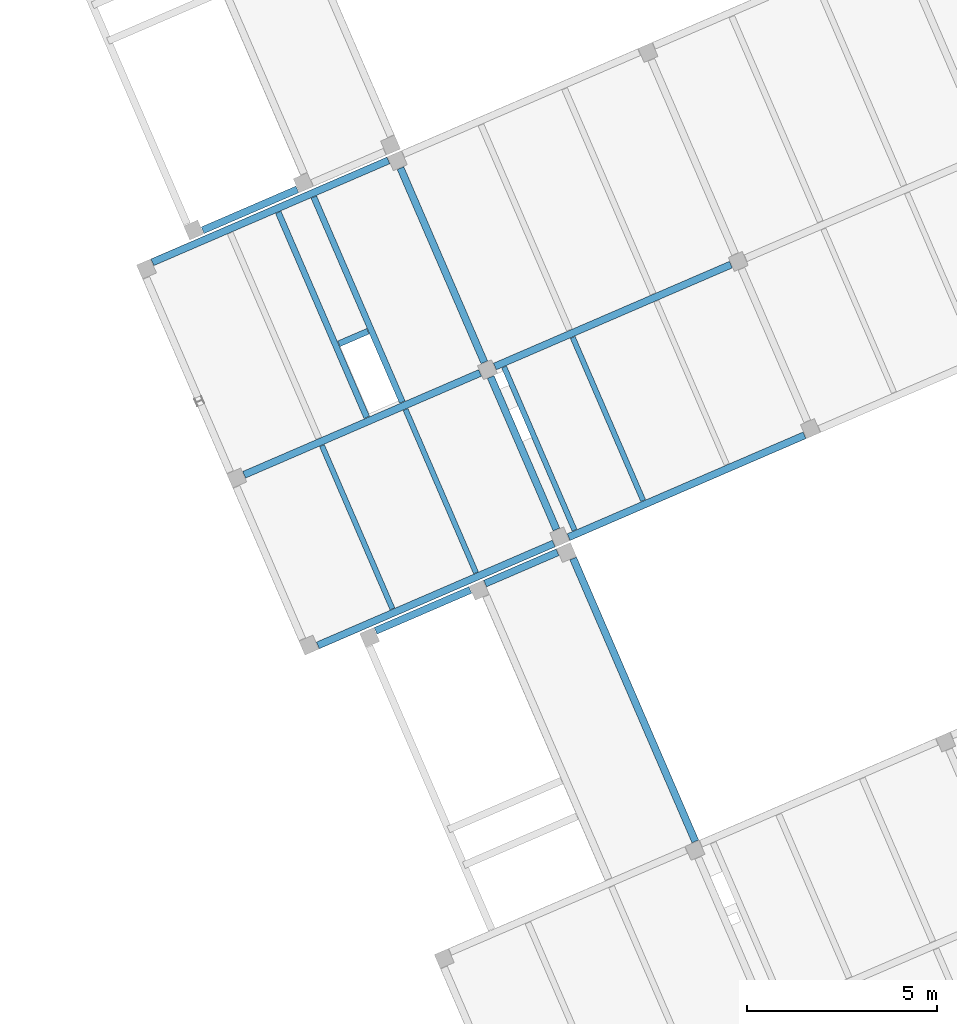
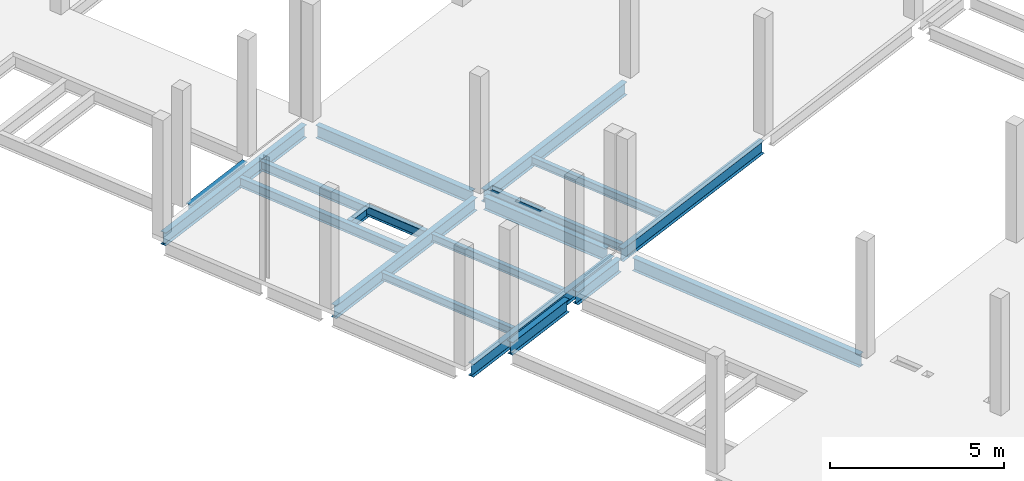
# One storey, part 8 of 24: 18 beams.
"""IFC4 building model written with IfcOpenShell, lengths in metres."""

from ifc_helpers import new_model, entity, si_unit, converted_unit, derived_unit, direction, frame, origin, place, context, subcontext, project, spatial, line, arc, indexed_curve, outline, extrude, source, transform, mapped, material, type_object, type_shapes, element, save


model = new_model("IFC4")

# Units and contexts
model_context = context("Model", 3, precision=1e-05, world=origin(), true_north=direction((6.12323399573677e-17, 1.0)))
body_context = subcontext(model_context, "Body", "Model", "MODEL_VIEW")
ifc_project = project(units=[si_unit("LENGTHUNIT", "METRE"), si_unit("AREAUNIT", "SQUARE_METRE"), si_unit("VOLUMEUNIT", "CUBIC_METRE"), converted_unit("PLANEANGLEUNIT", "DEGREE", entity("IfcPlaneAngleMeasure", 0.0174532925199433), si_unit("PLANEANGLEUNIT", "RADIAN"), dimensions=[0, 0, 0, 0, 0, 0, 0]), si_unit("MASSUNIT", "GRAM", prefix="KILO"), derived_unit("MOMENTOFINERTIAUNIT", [(si_unit("LENGTHUNIT", "METRE"), 4)]), derived_unit("LINEARFORCEUNIT", [(si_unit("MASSUNIT", "GRAM", prefix="KILO"), 1), (si_unit("TIMEUNIT", "SECOND"), -2)]), derived_unit("WARPINGCONSTANTUNIT", [(si_unit("LENGTHUNIT", "METRE"), 6)]), derived_unit("THERMALTRANSMITTANCEUNIT", [(si_unit("MASSUNIT", "GRAM", prefix="KILO"), 1), (si_unit("THERMODYNAMICTEMPERATUREUNIT", "KELVIN"), -1), (si_unit("TIMEUNIT", "SECOND"), -3)]), derived_unit("USERDEFINED", [(si_unit("MASSUNIT", "GRAM", prefix="KILO"), 1), (si_unit("TIMEUNIT", "SECOND"), -2), (si_unit("THERMODYNAMICTEMPERATUREUNIT", "KELVIN"), -1)]), derived_unit("THERMALRESISTANCEUNIT", [(si_unit("MASSUNIT", "GRAM", prefix="KILO"), -1), (si_unit("TIMEUNIT", "SECOND"), 3), (si_unit("THERMODYNAMICTEMPERATUREUNIT", "KELVIN"), 1)])], contexts=[model_context])

# Site, building, storey
site_placement = place(None, origin())
site = spatial("IfcSite", under=ifc_project, at=site_placement, Name="Default", CompositionType="ELEMENT")
building_placement = place(site_placement, frame((12.6613425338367, -82.5732315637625, 317.15), z_axis=(0.0, 0.0, 1.0), x_axis=(-0.396377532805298, 0.918087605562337, 0.0)))
building = spatial("IfcBuilding", under=site, at=building_placement, Name="CESFAM Coyhaique", CompositionType="ELEMENT")
storey_placement = place(building_placement, frame((0.0, 0.0, 4.20000000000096)))
storey = spatial("IfcBuildingStorey", under=building, at=storey_placement, Name="Nivel 2", CompositionType="ELEMENT", Elevation=4.20000000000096)

# Beams
ifc_material = material(Name="Steel, 45-345", Category="Metal")
beam_type_1 = type_object("IfcBeamType", Name="M_W Shapes:W450X190mm", PredefinedType="BEAM", material=ifc_material)
shared_shape_1 = source(origin(), body_context, "Body", "SweptSolid", [
    extrude(outline(indexed_curve([(-0.0949999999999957, -0.225000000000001), (0.0950000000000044, -0.225000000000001), (0.0950000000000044, -0.21535), (0.0105700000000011, -0.21535), (0.00516063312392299, -0.213109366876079), (0.0029200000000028, -0.2077), (0.0029200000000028, 0.207699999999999), (0.00516063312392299, 0.213109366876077), (0.0105700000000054, 0.21535), (0.0950000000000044, 0.21535), (0.0950000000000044, 0.224999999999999), (-0.0949999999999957, 0.224999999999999), (-0.0949999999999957, 0.21535), (-0.0105699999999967, 0.215349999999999), (-0.00516063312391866, 0.213109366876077), (-0.00291999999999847, 0.207699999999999), (-0.00291999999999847, -0.2077), (-0.00516063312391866, -0.213109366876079), (-0.0105699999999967, -0.21535), (-0.0949999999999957, -0.21535)], segments=[line(1, 2, 3, 4), arc(4, 5, 6), line(6, 7), arc(7, 8, 9), line(9, 10, 11, 12, 13, 14), arc(14, 15, 16), line(16, 17), arc(17, 18, 19), line(19, 20, 1)], self_intersect=False)), frame((23.8688534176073, 10.2155504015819, 3.82500000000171), z_axis=(0.0, 1.0, 0.0), x_axis=(-1.0, 0.0, 0.0)), (0.0, 0.0, 1.0), 6.7746),
])
type_shapes(beam_type_1, [shared_shape_1])
beam_1_placement = place(storey_placement, frame((0.0, 0.0, -4.20000000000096)))
element("IfcBeam", 1, at=beam_1_placement, inside=storey, type_object=beam_type_1, Name="M_W Shapes:W450X190mm", ObjectType="M_W Shapes:W450X190mm", PredefinedType="BEAM", context=body_context, shape_type="MappedRepresentation", body=[
    mapped(shared_shape_1, transform((0.0, 0.0, 0.0), scale=1.0)),
])
beam_type_2 = type_object("IfcBeamType", Name="M_W Shapes:W450X190mm", PredefinedType="BEAM", material=ifc_material)
shared_shape_2 = source(origin(), body_context, "Body", "SweptSolid", [
    extrude(outline(indexed_curve([(-0.0950000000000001, -0.225000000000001), (0.0950000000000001, -0.225000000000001), (0.0950000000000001, -0.21535), (0.0105699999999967, -0.21535), (0.00516063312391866, -0.213109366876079), (0.00291999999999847, -0.2077), (0.00291999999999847, 0.207699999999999), (0.00516063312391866, 0.213109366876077), (0.0105700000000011, 0.21535), (0.0950000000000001, 0.21535), (0.0950000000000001, 0.224999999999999), (-0.0950000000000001, 0.224999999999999), (-0.0950000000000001, 0.21535), (-0.0105700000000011, 0.215349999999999), (-0.00516063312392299, 0.213109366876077), (-0.0029200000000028, 0.207699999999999), (-0.0029200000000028, -0.2077), (-0.00516063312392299, -0.213109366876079), (-0.0105700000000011, -0.21535), (-0.0950000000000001, -0.21535)], segments=[line(1, 2, 3, 4), arc(4, 5, 6), line(6, 7), arc(7, 8, 9), line(9, 10, 11, 12, 13, 14), arc(14, 15, 16), line(16, 17), arc(17, 18, 19), line(19, 20, 1)], self_intersect=False)), frame((28.7688534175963, 10.2155504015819, 3.82500000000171), z_axis=(0.0, 1.0, 0.0), x_axis=(-1.0, 0.0, 0.0)), (0.0, 0.0, 1.0), 6.7746),
])
type_shapes(beam_type_2, [shared_shape_2])
beam_2_placement = place(storey_placement, frame((0.0, 0.0, -4.20000000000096)))
element("IfcBeam", 2, at=beam_2_placement, inside=storey, type_object=beam_type_2, Name="M_W Shapes:W450X190mm", ObjectType="M_W Shapes:W450X190mm", PredefinedType="BEAM", context=body_context, shape_type="MappedRepresentation", body=[
    mapped(shared_shape_2, transform((0.0, 0.0, 0.0), scale=1.0)),
])
beam_type_3 = type_object("IfcBeamType", Name="M_W Shapes:W450X190mm", PredefinedType="BEAM", material=ifc_material)
shared_shape_3 = source(origin(), body_context, "Body", "SweptSolid", [
    extrude(outline(indexed_curve([(-0.0949999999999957, -0.225000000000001), (0.0950000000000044, -0.225000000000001), (0.0950000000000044, -0.21535), (0.0105700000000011, -0.21535), (0.00516063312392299, -0.213109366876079), (0.0029200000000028, -0.2077), (0.0029200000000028, 0.207699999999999), (0.00516063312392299, 0.213109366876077), (0.0105700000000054, 0.21535), (0.0950000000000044, 0.21535), (0.0950000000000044, 0.224999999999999), (-0.0949999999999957, 0.224999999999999), (-0.0949999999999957, 0.21535), (-0.0105699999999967, 0.215349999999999), (-0.00516063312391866, 0.213109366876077), (-0.00291999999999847, 0.207699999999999), (-0.00291999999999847, -0.2077), (-0.00516063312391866, -0.213109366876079), (-0.0105699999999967, -0.21535), (-0.0949999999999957, -0.21535)], segments=[line(1, 2, 3, 4), arc(4, 5, 6), line(6, 7), arc(7, 8, 9), line(9, 10, 11, 12, 13, 14), arc(14, 15, 16), line(16, 17), arc(17, 18, 19), line(19, 20, 1)], self_intersect=False)), frame((34.8688534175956, 10.2155504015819, 3.82500000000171), z_axis=(0.0, 1.0, 0.0), x_axis=(-1.0, 0.0, 0.0)), (0.0, 0.0, 1.0), 6.7746),
])
type_shapes(beam_type_3, [shared_shape_3])
beam_3_placement = place(storey_placement, frame((0.0, 0.0, -4.20000000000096)))
element("IfcBeam", 3, at=beam_3_placement, inside=storey, type_object=beam_type_3, Name="M_W Shapes:W450X190mm", ObjectType="M_W Shapes:W450X190mm", PredefinedType="BEAM", context=body_context, shape_type="MappedRepresentation", body=[
    mapped(shared_shape_3, transform((0.0, 0.0, 0.0), scale=1.0)),
])
beam_type_4 = type_object("IfcBeamType", Name="M_W Shapes:W450X190mm", PredefinedType="BEAM", material=ifc_material)
shared_shape_4 = source(origin(), body_context, "Body", "SweptSolid", [
    extrude(outline(indexed_curve([(-0.225, -0.0950000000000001), (-0.215350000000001, -0.0949999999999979), (-0.21535, -0.0105699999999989), (-0.213109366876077, -0.00516063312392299), (-0.2077, -0.00291999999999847), (0.207699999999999, -0.00291999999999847), (0.213109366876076, -0.00516063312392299), (0.215349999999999, -0.0105699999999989), (0.215349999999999, -0.0950000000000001), (0.225, -0.0950000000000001), (0.225, 0.0950000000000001), (0.215349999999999, 0.0950000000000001), (0.215349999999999, 0.0105700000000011), (0.213109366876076, 0.00516063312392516), (0.207699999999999, 0.00292000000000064), (-0.2077, 0.00292000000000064), (-0.213109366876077, 0.00516063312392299), (-0.215350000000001, 0.0105700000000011), (-0.215350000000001, 0.0950000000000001), (-0.225, 0.0950000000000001)], segments=[line(1, 2, 3), arc(3, 4, 5), line(5, 6), arc(6, 7, 8), line(8, 9, 10, 11, 12, 13), arc(13, 14, 15), line(15, 16), arc(16, 17, 18), line(18, 19, 20, 1)], self_intersect=False)), frame((24.1815534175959, 10.0028504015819, 3.82500000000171), z_axis=(1.0, 0.0, 0.0), x_axis=(0.0, 0.0, -1.0)), (0.0, 0.0, 1.0), 4.3746),
])
type_shapes(beam_type_4, [shared_shape_4])
beam_4_placement = place(storey_placement, frame((0.0, 0.0, -4.20000000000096)))
element("IfcBeam", 4, at=beam_4_placement, inside=storey, type_object=beam_type_4, Name="M_W Shapes:W450X190mm", ObjectType="M_W Shapes:W450X190mm", PredefinedType="BEAM", context=body_context, shape_type="MappedRepresentation", body=[
    mapped(shared_shape_4, transform((0.0, 0.0, 0.0), scale=1.0)),
])
beam_type_5 = type_object("IfcBeamType", Name="M_W Shapes:W450X190mm", PredefinedType="BEAM", material=ifc_material)
shared_shape_5 = source(origin(), body_context, "Body", "SweptSolid", [
    extrude(outline(indexed_curve([(-0.0949999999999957, -0.225000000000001), (0.0950000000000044, -0.225000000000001), (0.0950000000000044, -0.21535), (0.0105700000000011, -0.21535), (0.00516063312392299, -0.213109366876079), (0.0029200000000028, -0.2077), (0.0029200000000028, 0.207699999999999), (0.00516063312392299, 0.213109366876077), (0.0105700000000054, 0.21535), (0.0950000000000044, 0.21535), (0.0950000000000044, 0.224999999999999), (-0.0949999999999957, 0.224999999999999), (-0.0949999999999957, 0.21535), (-0.0105699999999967, 0.215349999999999), (-0.00516063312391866, 0.213109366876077), (-0.00291999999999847, 0.207699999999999), (-0.00291999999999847, -0.2077), (-0.00516063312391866, -0.213109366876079), (-0.0105699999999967, -0.21535), (-0.0949999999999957, -0.21535)], segments=[line(1, 2, 3, 4), arc(4, 5, 6), line(6, 7), arc(7, 8, 9), line(9, 10, 11, 12, 13, 14), arc(14, 15, 16), line(16, 17), arc(17, 18, 19), line(19, 20, 1)], self_intersect=False)), frame((23.8688534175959, 3.0155504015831, 3.82500000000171), z_axis=(0.0, 1.0, 0.0), x_axis=(-1.0, 0.0, 0.0)), (0.0, 0.0, 1.0), 6.7746),
])
type_shapes(beam_type_5, [shared_shape_5])
beam_5_placement = place(storey_placement, frame((0.0, 0.0, -4.20000000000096)))
element("IfcBeam", 5, at=beam_5_placement, inside=storey, type_object=beam_type_5, Name="M_W Shapes:W450X190mm", ObjectType="M_W Shapes:W450X190mm", PredefinedType="BEAM", context=body_context, shape_type="MappedRepresentation", body=[
    mapped(shared_shape_5, transform((0.0, 0.0, 0.0), scale=1.0)),
])
beam_type_6 = type_object("IfcBeamType", Name="M_W Shapes:W450X190mm", PredefinedType="BEAM", material=ifc_material)
shared_shape_6 = source(origin(), body_context, "Body", "SweptSolid", [
    extrude(outline(indexed_curve([(-0.0950000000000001, -0.225000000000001), (0.0950000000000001, -0.225000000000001), (0.0950000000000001, -0.21535), (0.0105699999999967, -0.21535), (0.00516063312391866, -0.213109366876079), (0.00291999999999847, -0.2077), (0.00291999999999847, 0.207699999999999), (0.00516063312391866, 0.213109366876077), (0.0105700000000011, 0.21535), (0.0950000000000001, 0.21535), (0.0950000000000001, 0.224999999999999), (-0.0950000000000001, 0.224999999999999), (-0.0950000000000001, 0.21535), (-0.0105700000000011, 0.215349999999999), (-0.00516063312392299, 0.213109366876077), (-0.0029200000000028, 0.207699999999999), (-0.0029200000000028, -0.2077), (-0.00516063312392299, -0.213109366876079), (-0.0105700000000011, -0.21535), (-0.0950000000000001, -0.21535)], segments=[line(1, 2, 3, 4), arc(4, 5, 6), line(6, 7), arc(7, 8, 9), line(9, 10, 11, 12, 13, 14), arc(14, 15, 16), line(16, 17), arc(17, 18, 19), line(19, 20, 1)], self_intersect=False)), frame((28.7688534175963, 3.0155504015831, 3.82500000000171), z_axis=(0.0, 1.0, 0.0), x_axis=(-1.0, 0.0, 0.0)), (0.0, 0.0, 1.0), 6.7746),
])
type_shapes(beam_type_6, [shared_shape_6])
beam_6_placement = place(storey_placement, frame((0.0, 0.0, -4.20000000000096)))
element("IfcBeam", 6, at=beam_6_placement, inside=storey, type_object=beam_type_6, Name="M_W Shapes:W450X190mm", ObjectType="M_W Shapes:W450X190mm", PredefinedType="BEAM", context=body_context, shape_type="MappedRepresentation", body=[
    mapped(shared_shape_6, transform((0.0, 0.0, 0.0), scale=1.0)),
])
beam_type_7 = type_object("IfcBeamType", Name="M_W Shapes:W450X190mm", PredefinedType="BEAM", material=ifc_material)
shared_shape_7 = source(origin(), body_context, "Body", "SweptSolid", [
    extrude(outline(indexed_curve([(-0.225, -0.0950000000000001), (-0.215350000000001, -0.0950000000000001), (-0.21535, -0.0105699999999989), (-0.213109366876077, -0.00516063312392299), (-0.2077, -0.00291999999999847), (0.207699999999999, -0.00291999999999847), (0.213109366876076, -0.00516063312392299), (0.215349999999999, -0.0105699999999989), (0.215349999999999, -0.0950000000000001), (0.225, -0.0950000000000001), (0.225, 0.0950000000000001), (0.215349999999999, 0.0950000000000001), (0.215349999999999, 0.0105700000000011), (0.213109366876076, 0.00516063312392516), (0.207699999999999, 0.00292000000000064), (-0.2077, 0.00292000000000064), (-0.213109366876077, 0.00516063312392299), (-0.215350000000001, 0.0105700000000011), (-0.215350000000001, 0.0950000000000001), (-0.225, 0.0950000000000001)], segments=[line(1, 2, 3), arc(3, 4, 5), line(5, 6), arc(6, 7, 8), line(8, 9, 10, 11, 12, 13), arc(13, 14, 15), line(15, 16), arc(16, 17, 18), line(18, 19, 20, 1)], self_intersect=False)), frame((28.981553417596, 10.0028504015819, 3.82500000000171), z_axis=(1.0, 0.0, 0.0), x_axis=(0.0, 0.0, -1.0)), (0.0, 0.0, 1.0), 5.5746),
])
type_shapes(beam_type_7, [shared_shape_7])
beam_7_placement = place(storey_placement, frame((0.0, 0.0, -4.20000000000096)))
element("IfcBeam", 7, at=beam_7_placement, inside=storey, type_object=beam_type_7, Name="M_W Shapes:W450X190mm", ObjectType="M_W Shapes:W450X190mm", PredefinedType="BEAM", context=body_context, shape_type="MappedRepresentation", body=[
    mapped(shared_shape_7, transform((0.0, 0.0, 0.0), scale=1.0)),
])
beam_type_8 = type_object("IfcBeamType", Name="M_W Shapes:W450X190mm", PredefinedType="BEAM", material=ifc_material)
shared_shape_8 = source(origin(), body_context, "Body", "SweptSolid", [
    extrude(outline(indexed_curve([(-0.225, -0.0950000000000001), (-0.215350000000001, -0.0949999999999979), (-0.21535, -0.0105699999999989), (-0.213109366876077, -0.00516063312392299), (-0.2077, -0.00291999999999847), (0.207699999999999, -0.00291999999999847), (0.213109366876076, -0.00516063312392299), (0.215349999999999, -0.0105699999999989), (0.215349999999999, -0.0950000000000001), (0.225, -0.0950000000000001), (0.225, 0.0950000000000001), (0.215349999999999, 0.0950000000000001), (0.215349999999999, 0.0105700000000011), (0.213109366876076, 0.00516063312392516), (0.207699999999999, 0.00292000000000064), (-0.2077, 0.00292000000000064), (-0.213109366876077, 0.00516063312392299), (-0.215350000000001, 0.0105700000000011), (-0.215350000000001, 0.0950000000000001), (-0.225, 0.0950000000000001)], segments=[line(1, 2, 3), arc(3, 4, 5), line(5, 6), arc(6, 7, 8), line(8, 9, 10, 11, 12, 13), arc(13, 14, 15), line(15, 16), arc(16, 17, 18), line(18, 19, 20, 1)], self_intersect=False)), frame((15.1815534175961, 9.9028504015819, 3.82500000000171), z_axis=(1.0, 0.0, 0.0), x_axis=(0.0, 0.0, -1.0)), (0.0, 0.0, 1.0), 8.1246),
])
type_shapes(beam_type_8, [shared_shape_8])
beam_8_placement = place(storey_placement, frame((0.0, 0.0, -4.20000000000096)))
element("IfcBeam", 8, at=beam_8_placement, inside=storey, type_object=beam_type_8, Name="M_W Shapes:W450X190mm", ObjectType="M_W Shapes:W450X190mm", PredefinedType="BEAM", context=body_context, shape_type="MappedRepresentation", body=[
    mapped(shared_shape_8, transform((0.0, 0.0, 0.0), scale=1.0)),
])
beam_type_9 = type_object("IfcBeamType", Name="M_W Shapes:W450X190mm", PredefinedType="BEAM", material=ifc_material)
shared_shape_9 = source(origin(), body_context, "Body", "SweptSolid", [
    extrude(outline(indexed_curve([(-0.0950000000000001, -0.225000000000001), (0.0950000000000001, -0.225000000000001), (0.0950000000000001, -0.21535), (0.0105699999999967, -0.21535), (0.00516063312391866, -0.213109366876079), (0.00291999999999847, -0.2077), (0.00291999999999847, 0.207699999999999), (0.00516063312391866, 0.213109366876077), (0.0105699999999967, 0.21535), (0.0950000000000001, 0.21535), (0.0950000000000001, 0.224999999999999), (-0.0950000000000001, 0.224999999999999), (-0.0950000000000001, 0.21535), (-0.0105700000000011, 0.215349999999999), (-0.00516063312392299, 0.213109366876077), (-0.0029200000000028, 0.207699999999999), (-0.0029200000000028, -0.2077), (-0.00516063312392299, -0.213109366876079), (-0.0105700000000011, -0.21535), (-0.0950000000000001, -0.21535)], segments=[line(1, 2, 3, 4), arc(4, 5, 6), line(6, 7), arc(7, 8, 9), line(9, 10, 11, 12, 13, 14), arc(14, 15, 16), line(16, 17), arc(17, 18, 19), line(19, 20, 1)], self_intersect=False)), frame((23.6188533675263, 10.2155504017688, 3.82500000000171), z_axis=(0.0, 1.0, 0.0), x_axis=(-1.0, 0.0, 0.0)), (0.0, 0.0, 1.0), 2.0796),
])
type_shapes(beam_type_9, [shared_shape_9])
beam_9_placement = place(storey_placement, frame((0.0, 0.0, -4.20000000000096)))
element("IfcBeam", 9, at=beam_9_placement, inside=storey, type_object=beam_type_9, Name="M_W Shapes:W450X190mm", ObjectType="M_W Shapes:W450X190mm", PredefinedType="BEAM", context=body_context, shape_type="MappedRepresentation", body=[
    mapped(shared_shape_9, transform((0.0, 0.0, 0.0), scale=1.0)),
])
beam_type_10 = type_object("IfcBeamType", Name="M_W Shapes:W450X190mm", PredefinedType="BEAM", material=ifc_material)
shared_shape_10 = source(origin(), body_context, "Body", "SweptSolid", [
    extrude(outline(indexed_curve([(-0.0950000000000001, -0.225000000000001), (0.0950000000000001, -0.225000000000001), (0.0950000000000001, -0.21535), (0.0105699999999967, -0.21535), (0.00516063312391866, -0.213109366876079), (0.00291999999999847, -0.2077), (0.00291999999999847, 0.207699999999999), (0.00516063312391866, 0.213109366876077), (0.0105699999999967, 0.21535), (0.0950000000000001, 0.21535), (0.0950000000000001, 0.224999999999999), (-0.0950000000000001, 0.224999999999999), (-0.0950000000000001, 0.21535), (-0.0105700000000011, 0.215349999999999), (-0.00516063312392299, 0.213109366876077), (-0.0029200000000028, 0.207699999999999), (-0.0029200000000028, -0.2077), (-0.00516063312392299, -0.213109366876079), (-0.0105700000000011, -0.21535), (-0.0950000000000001, -0.21535)], segments=[line(1, 2, 3, 4), arc(4, 5, 6), line(6, 7), arc(7, 8, 9), line(9, 10, 11, 12, 13, 14), arc(14, 15, 16), line(16, 17), arc(17, 18, 19), line(19, 20, 1)], self_intersect=False)), frame((23.6188534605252, 12.720650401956, 3.82500000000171), z_axis=(0.0, 1.0, 0.0), x_axis=(-1.0, 0.0, 0.0)), (0.0, 0.0, 1.0), 2.7195),
])
type_shapes(beam_type_10, [shared_shape_10])
beam_10_placement = place(storey_placement, frame((0.0, 0.0, -4.20000000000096)))
element("IfcBeam", 10, at=beam_10_placement, inside=storey, type_object=beam_type_10, Name="M_W Shapes:W450X190mm", ObjectType="M_W Shapes:W450X190mm", PredefinedType="BEAM", context=body_context, shape_type="MappedRepresentation", body=[
    mapped(shared_shape_10, transform((0.0, 0.0, 0.0), scale=1.0)),
])
beam_type_11 = type_object("IfcBeamType", Name="M_W Shapes:W450X190mm", PredefinedType="BEAM", material=ifc_material)
shared_shape_11 = source(origin(), body_context, "Body", "SweptSolid", [
    extrude(outline(indexed_curve([(-0.0949999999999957, -0.225000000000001), (0.0950000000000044, -0.225000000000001), (0.0950000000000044, -0.21535), (0.0105700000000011, -0.21535), (0.00516063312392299, -0.213109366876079), (0.0029200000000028, -0.2077), (0.0029200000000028, 0.207699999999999), (0.00516063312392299, 0.213109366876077), (0.0105700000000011, 0.21535), (0.0950000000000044, 0.21535), (0.0950000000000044, 0.224999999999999), (-0.0949999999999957, 0.224999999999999), (-0.0949999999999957, 0.21535), (-0.0105699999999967, 0.215349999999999), (-0.00516063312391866, 0.213109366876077), (-0.00291999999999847, 0.207699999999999), (-0.00291999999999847, -0.2077), (-0.00516063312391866, -0.213109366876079), (-0.0105699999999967, -0.21535), (-0.0949999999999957, -0.21535)], segments=[line(1, 2, 3, 4), arc(4, 5, 6), line(6, 7), arc(7, 8, 9), line(9, 10, 11, 12, 13, 14), arc(14, 15, 16), line(16, 17), arc(17, 18, 19), line(19, 20, 1)], self_intersect=False)), frame((35.1188533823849, 12.7206504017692, 3.82500000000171), z_axis=(0.0, 1.0, 0.0), x_axis=(-1.0, 0.0, 0.0)), (0.0, 0.0, 1.0), 2.7195),
])
type_shapes(beam_type_11, [shared_shape_11])
beam_11_placement = place(storey_placement, frame((0.0, 0.0, -4.20000000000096)))
element("IfcBeam", 11, at=beam_11_placement, inside=storey, type_object=beam_type_11, Name="M_W Shapes:W450X190mm", ObjectType="M_W Shapes:W450X190mm", PredefinedType="BEAM", context=body_context, shape_type="MappedRepresentation", body=[
    mapped(shared_shape_11, transform((0.0, 0.0, 0.0), scale=1.0)),
])
beam_type_12 = type_object("IfcBeamType", Name="M_W Shapes:W270X140mm", PredefinedType="BEAM", material=ifc_material)
shared_shape_12 = source(origin(), body_context, "Body", "SweptSolid", [
    extrude(outline(indexed_curve([(-0.135, -0.0699999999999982), (-0.125350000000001, -0.0699999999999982), (-0.125350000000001, -0.0105699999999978), (-0.123109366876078, -0.00516063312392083), (-0.1177, -0.00291999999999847), (0.117699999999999, -0.00291999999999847), (0.123109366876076, -0.00516063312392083), (0.125349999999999, -0.0105699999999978), (0.125349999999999, -0.0699999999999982), (0.135, -0.0699999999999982), (0.135, 0.0700000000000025), (0.125349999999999, 0.0700000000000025), (0.12535, 0.0105700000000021), (0.123109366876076, 0.00516063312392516), (0.117699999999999, 0.00292000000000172), (-0.117700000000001, 0.00292000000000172), (-0.123109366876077, 0.00516063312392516), (-0.125350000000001, 0.0105700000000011), (-0.125350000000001, 0.0700000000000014), (-0.135, 0.0700000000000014)], segments=[line(1, 2, 3), arc(3, 4, 5), line(5, 6), arc(6, 7, 8), line(8, 9, 10, 11, 12, 13), arc(13, 14, 15), line(15, 16), arc(16, 17, 18), line(18, 19, 20, 1)], self_intersect=False)), frame((23.9765534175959, 7.60291737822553, 3.91500000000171), z_axis=(1.0, 0.0, 0.0), x_axis=(0.0, 0.0, -1.0)), (0.0, 0.0, 1.0), 4.6846),
])
type_shapes(beam_type_12, [shared_shape_12])
beam_12_placement = place(storey_placement, frame((0.0, 0.0, -4.20000000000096)))
element("IfcBeam", 12, at=beam_12_placement, inside=storey, type_object=beam_type_12, Name="M_W Shapes:W270X140mm", ObjectType="M_W Shapes:W270X140mm", PredefinedType="BEAM", context=body_context, shape_type="MappedRepresentation", body=[
    mapped(shared_shape_12, transform((0.0, 0.0, 0.0), scale=1.0)),
])
beam_type_13 = type_object("IfcBeamType", Name="M_W Shapes:W270X140mm", PredefinedType="BEAM", material=ifc_material)
shared_shape_13 = source(origin(), body_context, "Body", "SweptSolid", [
    extrude(outline(indexed_curve([(-0.135, -0.0699999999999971), (-0.125350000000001, -0.0699999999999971), (-0.125350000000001, -0.0105699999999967), (-0.123109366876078, -0.00516063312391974), (-0.1177, -0.00291999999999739), (0.117699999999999, -0.00291999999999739), (0.123109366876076, -0.00516063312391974), (0.125349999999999, -0.0105699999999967), (0.125349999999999, -0.0699999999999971), (0.135, -0.0699999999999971), (0.135, 0.0700000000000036), (0.125349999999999, 0.0700000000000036), (0.12535, 0.0105700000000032), (0.123109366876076, 0.00516063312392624), (0.117699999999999, 0.0029200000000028), (-0.117700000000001, 0.0029200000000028), (-0.123109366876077, 0.00516063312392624), (-0.125350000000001, 0.0105700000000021), (-0.125350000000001, 0.0700000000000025), (-0.135, 0.0700000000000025)], segments=[line(1, 2, 3), arc(3, 4, 5), line(5, 6), arc(6, 7, 8), line(8, 9, 10, 11, 12, 13), arc(13, 14, 15), line(15, 16), arc(16, 17, 18), line(18, 19, 20, 1)], self_intersect=False)), frame((23.9765534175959, 9.57285129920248, 3.91500000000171), z_axis=(1.0, 0.0, 0.0), x_axis=(0.0, 0.0, -1.0)), (0.0, 0.0, 1.0), 4.6846),
])
type_shapes(beam_type_13, [shared_shape_13])
beam_13_placement = place(storey_placement, frame((0.0, 0.0, -4.20000000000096)))
element("IfcBeam", 13, at=beam_13_placement, inside=storey, type_object=beam_type_13, Name="M_W Shapes:W270X140mm", ObjectType="M_W Shapes:W270X140mm", PredefinedType="BEAM", context=body_context, shape_type="MappedRepresentation", body=[
    mapped(shared_shape_13, transform((0.0, 0.0, 0.0), scale=1.0)),
])
beam_type_14 = type_object("IfcBeamType", Name="M_W Shapes:W330X160mm", PredefinedType="BEAM", material=ifc_material)
shared_shape_14 = source(origin(), body_context, "Body", "SweptSolid", [
    extrude(outline(indexed_curve([(-0.164999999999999, -0.0799999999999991), (-0.15535, -0.0799999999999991), (-0.15535, -0.0105699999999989), (-0.153109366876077, -0.00516063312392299), (-0.1477, -0.00291999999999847), (0.1477, -0.00291999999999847), (0.153109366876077, -0.00516063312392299), (0.15535, -0.0105700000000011), (0.15535, -0.0799999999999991), (0.165, -0.0799999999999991), (0.165000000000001, 0.0800000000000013), (0.15535, 0.0799999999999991), (0.15535, 0.0105700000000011), (0.153109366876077, 0.00516063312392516), (0.1477, 0.00292000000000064), (-0.1477, 0.00292000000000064), (-0.153109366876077, 0.00516063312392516), (-0.15535, 0.0105700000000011), (-0.15535, 0.0800000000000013), (-0.164999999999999, 0.0799999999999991)], segments=[line(1, 2, 3), arc(3, 4, 5), line(5, 6), arc(6, 7, 8), line(8, 9, 10, 11, 12, 13), arc(13, 14, 15), line(15, 16), arc(16, 17, 18), line(18, 19, 20, 1)], self_intersect=False)), frame((28.876553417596, 13.4229096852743, 3.88500000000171), z_axis=(1.0, 0.0, 0.0), x_axis=(0.0, 0.0, -1.0)), (0.0, 0.0, 1.0), 5.8873),
])
type_shapes(beam_type_14, [shared_shape_14])
beam_14_placement = place(storey_placement, frame((0.0, 0.0, -4.20000000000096)))
element("IfcBeam", 14, at=beam_14_placement, inside=storey, type_object=beam_type_14, Name="M_W Shapes:W330X160mm", ObjectType="M_W Shapes:W330X160mm", PredefinedType="BEAM", context=body_context, shape_type="MappedRepresentation", body=[
    mapped(shared_shape_14, transform((0.0, 0.0, 0.0), scale=1.0)),
])
beam_type_15 = type_object("IfcBeamType", Name="M_W Shapes:W270X140mm", PredefinedType="BEAM", material=ifc_material)
shared_shape_15 = source(origin(), body_context, "Body", "SweptSolid", [
    extrude(outline(indexed_curve([(-0.135, -0.0699999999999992), (-0.125350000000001, -0.0699999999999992), (-0.125350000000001, -0.0105699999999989), (-0.123109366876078, -0.00516063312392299), (-0.1177, -0.00291999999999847), (0.117699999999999, -0.00291999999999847), (0.123109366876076, -0.00516063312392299), (0.125349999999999, -0.0105699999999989), (0.125349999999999, -0.0699999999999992), (0.135, -0.0699999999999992), (0.135, 0.0700000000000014), (0.125349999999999, 0.0700000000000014), (0.125349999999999, 0.0105700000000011), (0.123109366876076, 0.00516063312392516), (0.117699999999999, 0.00292000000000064), (-0.117700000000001, 0.00292000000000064), (-0.123109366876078, 0.00516063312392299), (-0.125350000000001, 0.0105700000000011), (-0.125350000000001, 0.0700000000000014), (-0.135, 0.0699999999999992)], segments=[line(1, 2, 3), arc(3, 4, 5), line(5, 6), arc(6, 7, 8), line(8, 9, 10, 11, 12, 13), arc(13, 14, 15), line(15, 16), arc(16, 17, 18), line(18, 19, 20, 1)], self_intersect=False)), frame((23.9738534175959, 12.402918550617, 3.91500000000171), z_axis=(1.0, 0.0, 0.0), x_axis=(0.0, 0.0, -1.0)), (0.0, 0.0, 1.0), 4.6873),
])
type_shapes(beam_type_15, [shared_shape_15])
beam_15_placement = place(storey_placement, frame((0.0, 0.0, -4.20000000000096)))
element("IfcBeam", 15, at=beam_15_placement, inside=storey, type_object=beam_type_15, Name="M_W Shapes:W270X140mm", ObjectType="M_W Shapes:W270X140mm", PredefinedType="BEAM", context=body_context, shape_type="MappedRepresentation", body=[
    mapped(shared_shape_15, transform((0.0, 0.0, 0.0), scale=1.0)),
])
beam_type_16 = type_object("IfcBeamType", Name="M_W Shapes:W330X160mm", PredefinedType="BEAM", material=ifc_material)
shared_shape_16 = source(origin(), body_context, "Body", "SweptSolid", [
    extrude(outline(indexed_curve([(-0.164999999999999, -0.079999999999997), (-0.15535, -0.079999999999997), (-0.15535, -0.0105699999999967), (-0.153109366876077, -0.00516063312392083), (-0.1477, -0.0029199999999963), (0.1477, -0.0029199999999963), (0.153109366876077, -0.00516063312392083), (0.15535, -0.0105699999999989), (0.15535, -0.079999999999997), (0.165, -0.079999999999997), (0.165000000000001, 0.0800000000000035), (0.15535, 0.0800000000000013), (0.15535, 0.0105700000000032), (0.153109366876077, 0.00516063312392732), (0.1477, 0.0029200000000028), (-0.1477, 0.0029200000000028), (-0.153109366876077, 0.00516063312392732), (-0.15535, 0.0105700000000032), (-0.15535, 0.0800000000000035), (-0.164999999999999, 0.0800000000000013)], segments=[line(1, 2, 3), arc(3, 4, 5), line(5, 6), arc(6, 7, 8), line(8, 9, 10, 11, 12, 13), arc(13, 14, 15), line(15, 16), arc(16, 17, 18), line(18, 19, 20, 1)], self_intersect=False)), frame((28.876553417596, 12.4028515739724, 3.88500000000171), z_axis=(1.0, 0.0, 0.0), x_axis=(0.0, 0.0, -1.0)), (0.0, 0.0, 1.0), 5.8873),
])
type_shapes(beam_type_16, [shared_shape_16])
beam_16_placement = place(storey_placement, frame((0.0, 0.0, -4.20000000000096)))
element("IfcBeam", 16, at=beam_16_placement, inside=storey, type_object=beam_type_16, Name="M_W Shapes:W330X160mm", ObjectType="M_W Shapes:W330X160mm", PredefinedType="BEAM", context=body_context, shape_type="MappedRepresentation", body=[
    mapped(shared_shape_16, transform((0.0, 0.0, 0.0), scale=1.0)),
])
beam_type_17 = type_object("IfcBeamType", Name="M_W Shapes:W270X140mm", PredefinedType="BEAM", material=ifc_material)
shared_shape_17 = source(origin(), body_context, "Body", "SweptSolid", [
    extrude(outline(indexed_curve([(-0.135, -0.0699999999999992), (-0.125350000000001, -0.0699999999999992), (-0.125350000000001, -0.0105699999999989), (-0.123109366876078, -0.00516063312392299), (-0.1177, -0.00291999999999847), (0.117699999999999, -0.00291999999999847), (0.123109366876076, -0.00516063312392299), (0.125349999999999, -0.0105699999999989), (0.125349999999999, -0.0699999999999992), (0.135, -0.0699999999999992), (0.135, 0.0700000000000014), (0.125349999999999, 0.0700000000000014), (0.125349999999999, 0.0105700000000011), (0.123109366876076, 0.00516063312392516), (0.117699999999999, 0.00292000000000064), (-0.117700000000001, 0.00292000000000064), (-0.123109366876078, 0.00516063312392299), (-0.125350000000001, 0.0105700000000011), (-0.125350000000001, 0.0700000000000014), (-0.135, 0.0699999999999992)], segments=[line(1, 2, 3), arc(3, 4, 5), line(5, 6), arc(6, 7, 8), line(8, 9, 10, 11, 12, 13), arc(13, 14, 15), line(15, 16), arc(16, 17, 18), line(18, 19, 20, 1)], self_intersect=False)), frame((23.9738534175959, 14.8029185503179, 3.91500000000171), z_axis=(1.0, 0.0, 0.0), x_axis=(0.0, 0.0, -1.0)), (0.0, 0.0, 1.0), 4.6873),
])
type_shapes(beam_type_17, [shared_shape_17])
beam_17_placement = place(storey_placement, frame((0.0, 0.0, -4.20000000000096)))
element("IfcBeam", 17, at=beam_17_placement, inside=storey, type_object=beam_type_17, Name="M_W Shapes:W270X140mm", ObjectType="M_W Shapes:W270X140mm", PredefinedType="BEAM", context=body_context, shape_type="MappedRepresentation", body=[
    mapped(shared_shape_17, transform((0.0, 0.0, 0.0), scale=1.0)),
])
beam_type_18 = type_object("IfcBeamType", Name="M_W Shapes:W330X160mm", PredefinedType="BEAM", material=ifc_material)
shared_shape_18 = source(origin(), body_context, "Body", "SweptSolid", [
    extrude(outline(indexed_curve([(-0.0799999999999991, -0.165), (0.0800000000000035, -0.165), (0.0800000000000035, -0.15535), (0.0105700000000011, -0.155349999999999), (0.00516063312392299, -0.153109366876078), (0.0029200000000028, -0.1477), (0.0029200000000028, 0.1477), (0.00516063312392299, 0.153109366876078), (0.0105700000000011, 0.15535), (0.0800000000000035, 0.15535), (0.0800000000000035, 0.164999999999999), (-0.0799999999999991, 0.164999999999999), (-0.0799999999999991, 0.15535), (-0.0105699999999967, 0.155349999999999), (-0.00516063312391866, 0.153109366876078), (-0.00291999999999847, 0.1477), (-0.00291999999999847, -0.1477), (-0.00516063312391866, -0.153109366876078), (-0.0105699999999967, -0.15535), (-0.0799999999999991, -0.15535)], segments=[line(1, 2, 3, 4), arc(4, 5, 6), line(6, 7), arc(7, 8, 9), line(9, 10, 11, 12, 13, 14), arc(14, 15, 16), line(16, 17), arc(17, 18, 19), line(19, 20, 1)], self_intersect=False)), frame((30.9487427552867, 12.4955806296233, 3.88500000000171), z_axis=(0.0, 1.0, 0.0), x_axis=(-1.0, 0.0, 0.0)), (0.0, 0.0, 1.0), 0.834600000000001),
])
type_shapes(beam_type_18, [shared_shape_18])
beam_18_placement = place(storey_placement, frame((0.0, 0.0, -4.20000000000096)))
element("IfcBeam", 18, at=beam_18_placement, inside=storey, type_object=beam_type_18, Name="M_W Shapes:W330X160mm", ObjectType="M_W Shapes:W330X160mm", PredefinedType="BEAM", context=body_context, shape_type="MappedRepresentation", body=[
    mapped(shared_shape_18, transform((0.0, 0.0, 0.0), scale=1.0)),
])

save(model, "model.ifc")
